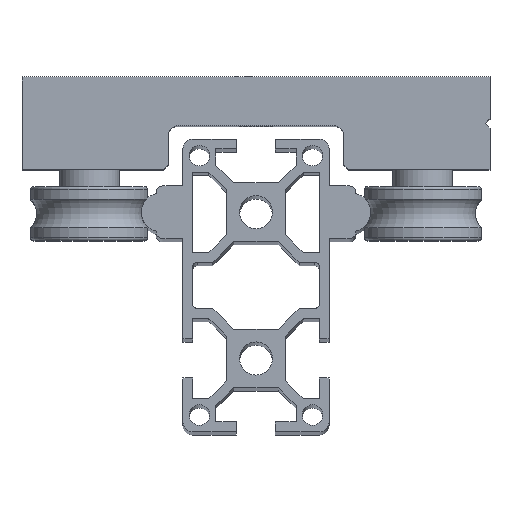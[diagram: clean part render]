
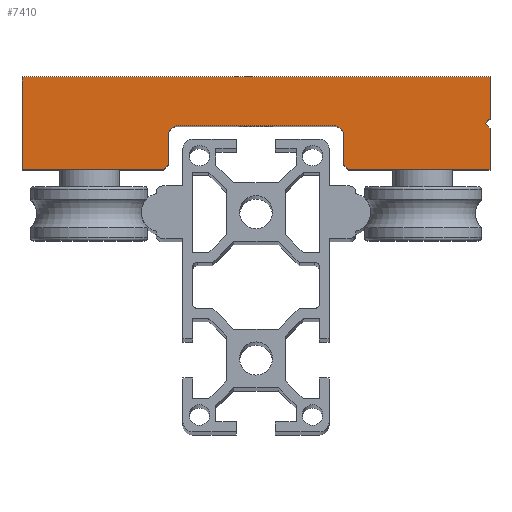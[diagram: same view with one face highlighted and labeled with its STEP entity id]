
A CAD part, top view. The second image highlights one B-rep face of the part: STEP entity #7410.
In plain terms, the highlighted planar face has unit normal (0, 0, 1).
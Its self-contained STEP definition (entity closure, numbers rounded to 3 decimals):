
#75 = ORIENTED_EDGE ( 'NONE', *, *, #9216, .T. ) ;
#195 = CARTESIAN_POINT ( 'NONE',  ( 48., 0., 100. ) ) ;
#251 = CARTESIAN_POINT ( 'NONE',  ( -19., 0., 100. ) ) ;
#522 = CARTESIAN_POINT ( 'NONE',  ( 48., 0., 100. ) ) ;
#620 = ORIENTED_EDGE ( 'NONE', *, *, #2669, .T. ) ;
#660 = CARTESIAN_POINT ( 'NONE',  ( 0., 0., 100. ) ) ;
#788 = DIRECTION ( 'NONE',  ( 0., 1., 0. ) ) ;
#854 = CARTESIAN_POINT ( 'NONE',  ( 48., 19., 100. ) ) ;
#902 = DIRECTION ( 'NONE',  ( -1., 0., 0. ) ) ;
#915 = VERTEX_POINT ( 'NONE', #251 ) ;
#993 = VECTOR ( 'NONE', #4250, 1000. ) ;
#1119 = CARTESIAN_POINT ( 'NONE',  ( -48., 19., 100. ) ) ;
#1149 = ORIENTED_EDGE ( 'NONE', *, *, #8177, .T. ) ;
#1259 = DIRECTION ( 'NONE',  ( 1., 0., 0. ) ) ;
#1469 = LINE ( 'NONE', #3383, #7746 ) ;
#1553 = DIRECTION ( 'NONE',  ( 0., 0., -1. ) ) ;
#1608 = VECTOR ( 'NONE', #6242, 1000. ) ;
#1760 = CARTESIAN_POINT ( 'NONE',  ( 19., 0., 100. ) ) ;
#1777 = CARTESIAN_POINT ( 'NONE',  ( 48., 8.5, 100. ) ) ;
#1889 = VECTOR ( 'NONE', #5662, 1000. ) ;
#2008 = ORIENTED_EDGE ( 'NONE', *, *, #5536, .T. ) ;
#2159 = PLANE ( 'NONE',  #4611 ) ;
#2163 = VERTEX_POINT ( 'NONE', #9139 ) ;
#2381 = ORIENTED_EDGE ( 'NONE', *, *, #9133, .T. ) ;
#2595 = DIRECTION ( 'NONE',  ( -1., 0., 0. ) ) ;
#2625 = VECTOR ( 'NONE', #8998, 1000. ) ;
#2669 = EDGE_CURVE ( 'NONE', #3112, #7877, #3218, .T. ) ;
#2695 = CARTESIAN_POINT ( 'NONE',  ( 18., 0., 100. ) ) ;
#2711 = VECTOR ( 'NONE', #6156, 1000. ) ;
#2738 = VERTEX_POINT ( 'NONE', #5895 ) ;
#2747 = LINE ( 'NONE', #2695, #1608 ) ;
#2927 = ORIENTED_EDGE ( 'NONE', *, *, #10912, .T. ) ;
#3017 = VECTOR ( 'NONE', #1259, 1000. ) ;
#3112 = VERTEX_POINT ( 'NONE', #1119 ) ;
#3138 = DIRECTION ( 'NONE',  ( -1., 0., 0. ) ) ;
#3218 = LINE ( 'NONE', #4951, #1889 ) ;
#3283 = ORIENTED_EDGE ( 'NONE', *, *, #5046, .T. ) ;
#3309 = LINE ( 'NONE', #4397, #8525 ) ;
#3383 = CARTESIAN_POINT ( 'NONE',  ( -18., 1., 100. ) ) ;
#3422 = CARTESIAN_POINT ( 'NONE',  ( 16., 9., 100. ) ) ;
#3440 = VERTEX_POINT ( 'NONE', #5836 ) ;
#3480 = DIRECTION ( 'NONE',  ( 1., 0., 0. ) ) ;
#3483 = VERTEX_POINT ( 'NONE', #5726 ) ;
#3616 = LINE ( 'NONE', #10868, #2625 ) ;
#4049 = EDGE_CURVE ( 'NONE', #3440, #2163, #6165, .T. ) ;
#4065 = EDGE_LOOP ( 'NONE', ( #5857, #2927, #4706, #6565, #5570, #8386, #7938, #1149, #620, #2381, #3283, #6400, #75, #10852, #2008 ) ) ;
#4250 = DIRECTION ( 'NONE',  ( -0.707, 0.707, 0. ) ) ;
#4266 = VERTEX_POINT ( 'NONE', #3422 ) ;
#4358 = LINE ( 'NONE', #4459, #2711 ) ;
#4397 = CARTESIAN_POINT ( 'NONE',  ( -48., 0., 100. ) ) ;
#4459 = CARTESIAN_POINT ( 'NONE',  ( 48., 0., 100. ) ) ;
#4501 = VECTOR ( 'NONE', #7826, 1000. ) ;
#4611 = AXIS2_PLACEMENT_3D ( 'NONE', #660, #10616, #2595 ) ;
#4654 = CARTESIAN_POINT ( 'NONE',  ( -48., 0., 100. ) ) ;
#4706 = ORIENTED_EDGE ( 'NONE', *, *, #6760, .T. ) ;
#4940 = DIRECTION ( 'NONE',  ( -1., 0., 0. ) ) ;
#4951 = CARTESIAN_POINT ( 'NONE',  ( -48., 0., 100. ) ) ;
#4987 = CARTESIAN_POINT ( 'NONE',  ( 47., 9.5, 100. ) ) ;
#5046 = EDGE_CURVE ( 'NONE', #915, #3440, #1469, .T. ) ;
#5077 = EDGE_CURVE ( 'NONE', #10464, #11404, #8925, .T. ) ;
#5536 = EDGE_CURVE ( 'NONE', #4266, #2738, #11154, .T. ) ;
#5570 = ORIENTED_EDGE ( 'NONE', *, *, #5077, .T. ) ;
#5579 = LINE ( 'NONE', #8285, #9505 ) ;
#5662 = DIRECTION ( 'NONE',  ( 0., -1., 0. ) ) ;
#5726 = CARTESIAN_POINT ( 'NONE',  ( -16., 9., 100. ) ) ;
#5775 = LINE ( 'NONE', #522, #8123 ) ;
#5816 = EDGE_CURVE ( 'NONE', #6507, #9906, #4358, .T. ) ;
#5836 = CARTESIAN_POINT ( 'NONE',  ( -18., 1., 100. ) ) ;
#5857 = ORIENTED_EDGE ( 'NONE', *, *, #7096, .T. ) ;
#5895 = CARTESIAN_POINT ( 'NONE',  ( 18., 7., 100. ) ) ;
#6097 = VERTEX_POINT ( 'NONE', #1760 ) ;
#6156 = DIRECTION ( 'NONE',  ( 0., 1., 0. ) ) ;
#6165 = LINE ( 'NONE', #11592, #9945 ) ;
#6216 = DIRECTION ( 'NONE',  ( 0.707, 0.707, 0. ) ) ;
#6242 = DIRECTION ( 'NONE',  ( 0., -1., 0. ) ) ;
#6320 = EDGE_CURVE ( 'NONE', #11168, #10464, #5775, .T. ) ;
#6400 = ORIENTED_EDGE ( 'NONE', *, *, #4049, .T. ) ;
#6441 = AXIS2_PLACEMENT_3D ( 'NONE', #10351, #1553, #4940 ) ;
#6507 = VERTEX_POINT ( 'NONE', #10477 ) ;
#6544 = CARTESIAN_POINT ( 'NONE',  ( 48., 8.5, 100. ) ) ;
#6565 = ORIENTED_EDGE ( 'NONE', *, *, #6320, .T. ) ;
#6760 = EDGE_CURVE ( 'NONE', #6097, #11168, #3309, .T. ) ;
#6990 = CARTESIAN_POINT ( 'NONE',  ( 47., 9.5, 100. ) ) ;
#7096 = EDGE_CURVE ( 'NONE', #2738, #10072, #2747, .T. ) ;
#7322 = VECTOR ( 'NONE', #8523, 1000. ) ;
#7410 = ADVANCED_FACE ( 'NONE', ( #7452 ), #2159, .F. ) ;
#7452 = FACE_OUTER_BOUND ( 'NONE', #4065, .T. ) ;
#7591 = LINE ( 'NONE', #11193, #3017 ) ;
#7746 = VECTOR ( 'NONE', #6216, 1000. ) ;
#7817 = LINE ( 'NONE', #4987, #7322 ) ;
#7826 = DIRECTION ( 'NONE',  ( 0.707, -0.707, 0. ) ) ;
#7877 = VERTEX_POINT ( 'NONE', #4654 ) ;
#7938 = ORIENTED_EDGE ( 'NONE', *, *, #5816, .T. ) ;
#8004 = CARTESIAN_POINT ( 'NONE',  ( -16., 7., 100. ) ) ;
#8123 = VECTOR ( 'NONE', #10370, 1000. ) ;
#8177 = EDGE_CURVE ( 'NONE', #9906, #3112, #5579, .T. ) ;
#8224 = CIRCLE ( 'NONE', #9903, 2. ) ;
#8285 = CARTESIAN_POINT ( 'NONE',  ( -48., 19., 100. ) ) ;
#8386 = ORIENTED_EDGE ( 'NONE', *, *, #11300, .T. ) ;
#8473 = CARTESIAN_POINT ( 'NONE',  ( 18., 1., 100. ) ) ;
#8523 = DIRECTION ( 'NONE',  ( 0.707, 0.707, 0. ) ) ;
#8525 = VECTOR ( 'NONE', #3480, 1000. ) ;
#8925 = LINE ( 'NONE', #1777, #993 ) ;
#8998 = DIRECTION ( 'NONE',  ( 1., 0., 0. ) ) ;
#9133 = EDGE_CURVE ( 'NONE', #7877, #915, #3616, .T. ) ;
#9139 = CARTESIAN_POINT ( 'NONE',  ( -18., 7., 100. ) ) ;
#9216 = EDGE_CURVE ( 'NONE', #2163, #3483, #8224, .T. ) ;
#9401 = CARTESIAN_POINT ( 'NONE',  ( 19., 0., 100. ) ) ;
#9505 = VECTOR ( 'NONE', #3138, 1000. ) ;
#9903 = AXIS2_PLACEMENT_3D ( 'NONE', #8004, #10699, #902 ) ;
#9906 = VERTEX_POINT ( 'NONE', #854 ) ;
#9945 = VECTOR ( 'NONE', #788, 1000. ) ;
#10072 = VERTEX_POINT ( 'NONE', #8473 ) ;
#10288 = LINE ( 'NONE', #9401, #4501 ) ;
#10351 = CARTESIAN_POINT ( 'NONE',  ( 16., 7., 100. ) ) ;
#10370 = DIRECTION ( 'NONE',  ( 0., 1., 0. ) ) ;
#10464 = VERTEX_POINT ( 'NONE', #6544 ) ;
#10477 = CARTESIAN_POINT ( 'NONE',  ( 48., 10.5, 100. ) ) ;
#10616 = DIRECTION ( 'NONE',  ( 0., 0., -1. ) ) ;
#10699 = DIRECTION ( 'NONE',  ( 0., 0., -1. ) ) ;
#10825 = EDGE_CURVE ( 'NONE', #3483, #4266, #7591, .T. ) ;
#10852 = ORIENTED_EDGE ( 'NONE', *, *, #10825, .T. ) ;
#10868 = CARTESIAN_POINT ( 'NONE',  ( -48., 0., 100. ) ) ;
#10912 = EDGE_CURVE ( 'NONE', #10072, #6097, #10288, .T. ) ;
#11154 = CIRCLE ( 'NONE', #6441, 2. ) ;
#11168 = VERTEX_POINT ( 'NONE', #195 ) ;
#11193 = CARTESIAN_POINT ( 'NONE',  ( 18., 9., 100. ) ) ;
#11300 = EDGE_CURVE ( 'NONE', #11404, #6507, #7817, .T. ) ;
#11404 = VERTEX_POINT ( 'NONE', #6990 ) ;
#11592 = CARTESIAN_POINT ( 'NONE',  ( -18., 0., 100. ) ) ;
